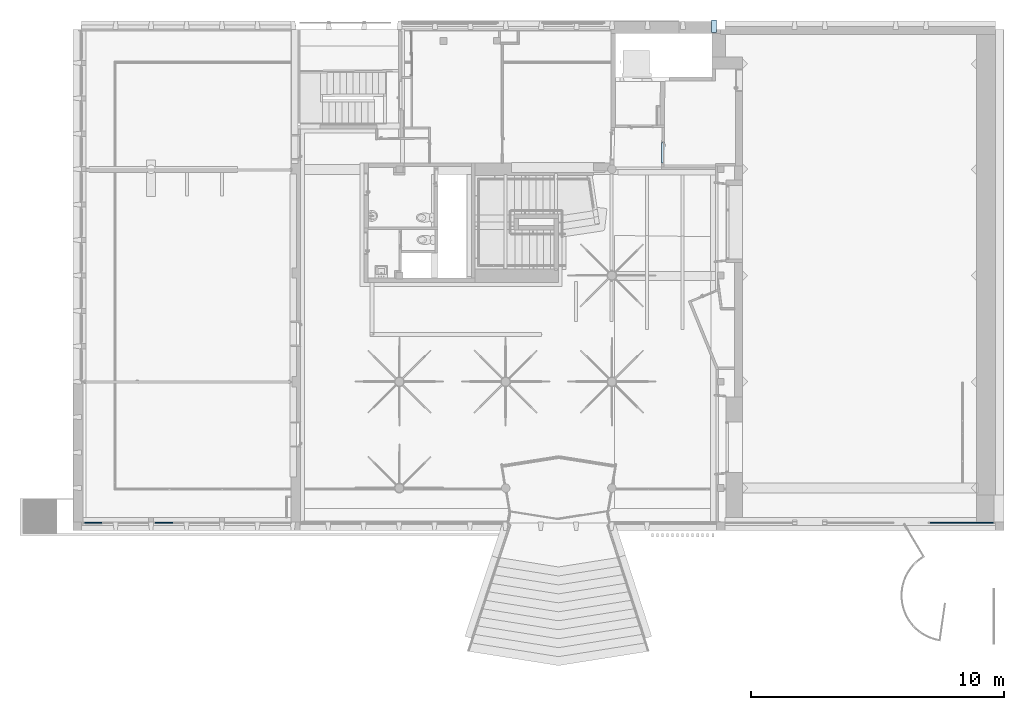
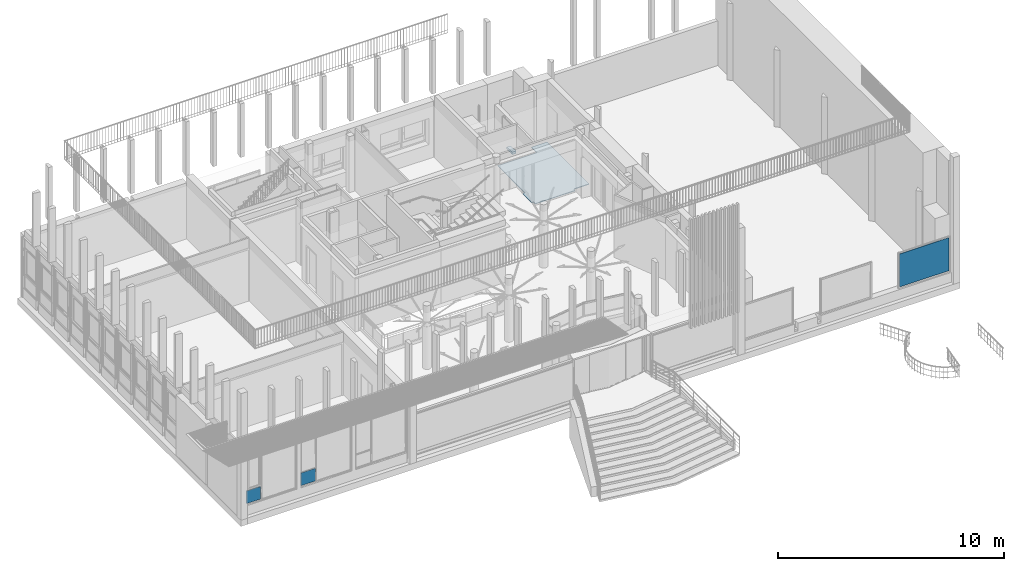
# One storey, part 18 of 65: 3 plates, 2 slabs, 3 elements without a shape of their own.
"""IFC4 building model written with IfcOpenShell, lengths in metres."""

from ifc_helpers import new_model, entity, si_unit, converted_unit, derived_unit, direction, frame, origin, place, context, subcontext, project, spatial, indexed_curve, outline, extrude, shape, source, transform, mapped, material, layer, layer_set, type_object, type_shapes, element, aggregate, save


model = new_model("IFC4")

# Units and contexts
model_context = context("Model", 3, precision=1e-05, world=origin(), true_north=direction((6.12303176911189e-17, 1.0)))
body_context = subcontext(model_context, "Body", "Model", "MODEL_VIEW")
footprint_context = subcontext(model_context, "FootPrint", "Model", "MODEL_VIEW")
ifc_project = project(units=[si_unit("LENGTHUNIT", "METRE"), si_unit("AREAUNIT", "SQUARE_METRE"), si_unit("VOLUMEUNIT", "CUBIC_METRE"), converted_unit("PLANEANGLEUNIT", "DEGREE", entity("IfcRatioMeasure", 0.0174532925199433), si_unit("PLANEANGLEUNIT", "RADIAN"), dimensions=[0, 0, 0, 0, 0, 0, 0]), si_unit("MASSUNIT", "GRAM", prefix="KILO"), derived_unit("MASSDENSITYUNIT", [(si_unit("MASSUNIT", "GRAM", prefix="KILO"), 1), (si_unit("LENGTHUNIT", "METRE"), -3)]), derived_unit("MOMENTOFINERTIAUNIT", [(si_unit("LENGTHUNIT", "METRE"), 4)]), si_unit("TIMEUNIT", "SECOND"), si_unit("FREQUENCYUNIT", "HERTZ"), si_unit("THERMODYNAMICTEMPERATUREUNIT", "DEGREE_CELSIUS"), derived_unit("THERMALTRANSMITTANCEUNIT", [(si_unit("MASSUNIT", "GRAM", prefix="KILO"), 1), (si_unit("THERMODYNAMICTEMPERATUREUNIT", "KELVIN"), -1), (si_unit("TIMEUNIT", "SECOND"), -3)]), derived_unit("VOLUMETRICFLOWRATEUNIT", [(si_unit("LENGTHUNIT", "METRE"), 3), (si_unit("TIMEUNIT", "SECOND"), -1)]), si_unit("ELECTRICCURRENTUNIT", "AMPERE"), si_unit("ELECTRICVOLTAGEUNIT", "VOLT"), si_unit("POWERUNIT", "WATT"), si_unit("FORCEUNIT", "NEWTON", prefix="KILO"), si_unit("ILLUMINANCEUNIT", "LUX"), si_unit("LUMINOUSFLUXUNIT", "LUMEN"), si_unit("LUMINOUSINTENSITYUNIT", "CANDELA"), derived_unit("USERDEFINED", [(si_unit("MASSUNIT", "GRAM", prefix="KILO"), -1), (si_unit("LENGTHUNIT", "METRE"), -2), (si_unit("TIMEUNIT", "SECOND"), 3), (si_unit("LUMINOUSFLUXUNIT", "LUMEN"), 1)]), derived_unit("LINEARVELOCITYUNIT", [(si_unit("LENGTHUNIT", "METRE"), 1), (si_unit("TIMEUNIT", "SECOND"), -1)]), si_unit("PRESSUREUNIT", "PASCAL"), derived_unit("USERDEFINED", [(si_unit("LENGTHUNIT", "METRE"), -2), (si_unit("MASSUNIT", "GRAM", prefix="KILO"), 1), (si_unit("TIMEUNIT", "SECOND"), -2)]), derived_unit("LINEARFORCEUNIT", [(si_unit("MASSUNIT", "GRAM", prefix="KILO"), 1), (si_unit("LENGTHUNIT", "METRE"), 1), (si_unit("TIMEUNIT", "SECOND"), -2), (si_unit("LENGTHUNIT", "METRE"), -1)]), derived_unit("PLANARFORCEUNIT", [(si_unit("MASSUNIT", "GRAM", prefix="KILO"), 1), (si_unit("LENGTHUNIT", "METRE"), 1), (si_unit("TIMEUNIT", "SECOND"), -2), (si_unit("LENGTHUNIT", "METRE"), -2)])], contexts=[model_context])

# Site, building, storey
site_placement = place(None, origin())
site = spatial("IfcSite", under=ifc_project, at=site_placement, Name="Default", CompositionType="ELEMENT")
building_placement = place(site_placement, origin())
building = spatial("IfcBuilding", under=site, at=building_placement, Name="HOTEL CONSULAIRE BOULOGNE SUR MER", CompositionType="ELEMENT")
storey_placement = place(building_placement, origin())
storey = spatial("IfcBuildingStorey", under=building, at=storey_placement, Name="Niveau 0", CompositionType="ELEMENT", Elevation=1.31981936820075e-13)

# Slab
ifc_material_1 = material(Name="Carreau, porcelaine, 4 po", Category="Mosaïque")
ifc_layer_1 = layer(ifc_material_1, 0.04, Name="Carreau, porcelaine, 4 po", Category="Mosaïque")
ifc_layer_set_1 = layer_set([ifc_layer_1], Name="Sol:Finition carrelage blanc")
slab_type_1 = type_object("IfcSlabType", Name="Sol:Finition carrelage blanc", PredefinedType="FLOOR", material=ifc_layer_set_1)
slab_1_placement = place(storey_placement, origin())
element("IfcSlab", 1, at=slab_1_placement, inside=storey, type_object=slab_type_1, material=ifc_layer_set_1, Name="Sol:Finition carrelage blanc", ObjectType="Sol:Finition carrelage blanc", PredefinedType="FLOOR", context=body_context, shape_type="SweptSolid", body=[
    extrude(outline(indexed_curve([(-0.90341717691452, -1.41719941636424), (1.1419232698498, -1.41719941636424), (1.13958528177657, -1.26304535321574), (1.2395737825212, -1.26152887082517), (1.2274419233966, -0.461620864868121), (1.12418613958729, -0.463186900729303), (1.10067946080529, 1.97951634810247), (-0.893998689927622, 1.97951634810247), (-0.893998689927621, 2.44951634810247), (-1.68927906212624, 2.44951634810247), (-1.68927906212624, -1.28714228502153), (-0.90341717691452, -1.28714228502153), (-0.90341717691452, -1.41719941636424)], self_intersect=False)), frame((10.3671988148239, -14.0987103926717, 0.019999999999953), z_axis=(0.0, 0.0, -1.0), x_axis=(-1.0, 0.0, 0.0)), (0.0, 0.0, 1.0), 0.04),
])

# Curtain wall, plate
curtain_wall_type = type_object("IfcCurtainWallType", Name="Mur-rideau:Simple panneau", PredefinedType="NOTDEFINED")
curtain_wall_1_placement = place(storey_placement, origin())
curtain_wall_1 = element("IfcCurtainWall", 2, at=curtain_wall_1_placement, inside=storey, type_object=curtain_wall_type, Name="Mur-rideau:Simple panneau", ObjectType="Mur-rideau:Simple panneau", PredefinedType="NOTDEFINED")
ifc_material_2 = material(Name="Verre", Category="Verre")
ifc_layer_2 = layer(ifc_material_2, 0.04, Name="Verre", Category="Verre")
ifc_layer_set_2 = layer_set([ifc_layer_2], Name="Mur-rideau:Simple panneau")
plate_type_1 = type_object("IfcPlateType", Name="Panneau système:Vitré", PredefinedType="CURTAIN_PANEL", material=ifc_layer_set_2)
shared_shape_1 = source(origin(), body_context, "Body", "SweptSolid", [
    extrude(outline(indexed_curve([(-0.02, -1.26160736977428), (0.02, -1.26160736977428), (0.02, 1.26160736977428), (-0.02, 1.26160736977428), (-0.02, -1.26160736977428)], self_intersect=False)), frame((1.26160736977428, 0.02, 0.0), z_axis=(0.0, 0.0, 1.0), x_axis=(0.0, 1.0, 0.0)), (0.0, 0.0, 1.0), 1.78944921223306),
])
shared_shape_2 = source(frame((-1.26160736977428, 0.00499999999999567, 0.0)), footprint_context, "FootPrint", "Curve2D", [
    entity("IfcIndexedPolyCurve", entity("IfcCartesianPointList2D", [[1.64614529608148, 0.00347599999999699], [1.64614529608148, 0.043475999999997], [-0.877069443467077, 0.043475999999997], [-0.877069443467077, 0.00347599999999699], [1.64614529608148, 0.00347599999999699]]), None, False),
])
type_shapes(plate_type_1, [shared_shape_1, shared_shape_2])
plate_1_placement = place(curtain_wall_1_placement, frame((19.7354235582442, -29.6090671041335, 0.374591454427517)))
plate_1 = element("IfcPlate", 3, at=plate_1_placement, type_object=plate_type_1, material=ifc_layer_set_2, Name="Panneau système:Vitré", ObjectType="Panneau système:Vitré", PredefinedType="CURTAIN_PANEL", shapes=[
    shape(body_context, "Body", "MappedRepresentation", [mapped(shared_shape_1, transform((0.0, 0.0, 0.0), scale=1.0))]),
    shape(body_context, "Body", "MappedRepresentation", [mapped(shared_shape_2, transform((0.0, 0.0, 0.0), scale=1.0))]),
])
aggregate(curtain_wall_1, [plate_1])

curtain_wall_2_placement = place(storey_placement, origin())
curtain_wall_2 = element("IfcCurtainWall", 4, at=curtain_wall_2_placement, inside=storey, type_object=curtain_wall_type, Name="Mur-rideau:Simple panneau", ObjectType="Mur-rideau:Simple panneau", PredefinedType="NOTDEFINED")
plate_type_2 = type_object("IfcPlateType", Name="Panneau système:Vitré", PredefinedType="CURTAIN_PANEL", material=ifc_layer_set_2)
shared_shape_3 = source(origin(), body_context, "Body", "SweptSolid", [
    extrude(outline(indexed_curve([(-0.02, -0.357184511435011), (0.02, -0.357184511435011), (0.02, 0.357184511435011), (-0.02, 0.357184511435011), (-0.02, -0.357184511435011)], self_intersect=False)), frame((0.357184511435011, 0.02, 0.0), z_axis=(0.0, 0.0, 1.0), x_axis=(0.0, 1.0, 0.0)), (0.0, 0.0, 1.0), 0.684),
])
shared_shape_4 = source(frame((-0.35718451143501, 0.00499999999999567, 0.0)), footprint_context, "FootPrint", "Curve2D", [
    entity("IfcIndexedPolyCurve", entity("IfcCartesianPointList2D", [[0.466054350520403, 0.00347599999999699], [0.466054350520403, 0.043475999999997], [-0.248314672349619, 0.043475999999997], [-0.248314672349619, 0.00347599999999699], [0.466054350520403, 0.00347599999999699]]), None, False),
])
type_shapes(plate_type_2, [shared_shape_3, shared_shape_4])
plate_2_placement = place(curtain_wall_2_placement, frame((-13.6793496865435, -29.6090671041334, 0.349999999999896)))
plate_2 = element("IfcPlate", 5, at=plate_2_placement, type_object=plate_type_2, material=ifc_layer_set_2, Name="Panneau système:Vitré", ObjectType="Panneau système:Vitré", PredefinedType="CURTAIN_PANEL", shapes=[
    shape(body_context, "Body", "MappedRepresentation", [mapped(shared_shape_3, transform((0.0, 0.0, 0.0), scale=1.0))]),
    shape(body_context, "Body", "MappedRepresentation", [mapped(shared_shape_4, transform((0.0, 0.0, 0.0), scale=1.0))]),
])
aggregate(curtain_wall_2, [plate_2])

curtain_wall_3_placement = place(storey_placement, origin())
curtain_wall_3 = element("IfcCurtainWall", 6, at=curtain_wall_3_placement, inside=storey, type_object=curtain_wall_type, Name="Mur-rideau:Simple panneau", ObjectType="Mur-rideau:Simple panneau", PredefinedType="NOTDEFINED")
plate_type_3 = type_object("IfcPlateType", Name="Panneau système:Vitré", PredefinedType="CURTAIN_PANEL", material=ifc_layer_set_2)
shared_shape_5 = source(origin(), body_context, "Body", "SweptSolid", [
    extrude(outline(indexed_curve([(-0.02, -0.363219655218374), (0.02, -0.363219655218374), (0.02, 0.363219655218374), (-0.02, 0.363219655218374), (-0.02, -0.363219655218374)], self_intersect=False)), frame((0.363219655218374, 0.02, 0.0), z_axis=(0.0, 0.0, 1.0), x_axis=(0.0, 1.0, 0.0)), (0.0, 0.0, 1.0), 0.684),
])
shared_shape_6 = source(frame((-0.363219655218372, 0.00500000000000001, 0.0)), footprint_context, "FootPrint", "Curve2D", [
    entity("IfcIndexedPolyCurve", entity("IfcCartesianPointList2D", [[0.473929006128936, 0.003476], [0.473929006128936, 0.043476], [-0.252510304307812, 0.043476], [-0.252510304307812, 0.003476], [0.473929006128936, 0.003476]]), None, False),
])
type_shapes(plate_type_3, [shared_shape_5, shared_shape_6])
plate_3_placement = place(curtain_wall_3_placement, frame((-10.8914199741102, -29.6090671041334, 0.349999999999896)))
plate_3 = element("IfcPlate", 7, at=plate_3_placement, type_object=plate_type_3, material=ifc_layer_set_2, Name="Panneau système:Vitré", ObjectType="Panneau système:Vitré", PredefinedType="CURTAIN_PANEL", shapes=[
    shape(body_context, "Body", "MappedRepresentation", [mapped(shared_shape_5, transform((0.0, 0.0, 0.0), scale=1.0))]),
    shape(body_context, "Body", "MappedRepresentation", [mapped(shared_shape_6, transform((0.0, 0.0, 0.0), scale=1.0))]),
])
aggregate(curtain_wall_3, [plate_3])

# Slab
ifc_material_3 = material(Name="Plâtre", Category="Plâtre")
slab_type_2 = type_object("IfcSlabType", Name="Sols 2:Sols 2", PredefinedType="FLOOR", material=ifc_material_3)
slab_2_placement = place(storey_placement, frame((11.1084859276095, -10.2140173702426, -1.20519978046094)))
element("IfcSlab", 8, at=slab_2_placement, inside=storey, type_object=slab_type_2, Name="Sols 2:Sols 2", ObjectType="Sols 2:Sols 2", PredefinedType="FLOOR", context=body_context, shape_type="SweptSolid", body=[
    extrude(outline(indexed_curve([(-0.048220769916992, -0.219092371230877), (0.0596615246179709, -0.219092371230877), (0.0850007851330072, 0.279292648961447), (-0.0482207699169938, 0.279292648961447), (-0.0482207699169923, -0.120400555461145), (-0.048220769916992, -0.219092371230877)], self_intersect=False)), frame((0.0, 0.279292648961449, 0.0482207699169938), z_axis=(1.0, 0.0, 0.0), x_axis=(0.0, 0.0, 1.0)), (0.0, 0.0, 1.0), 0.198152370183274),
])

save(model, "model.ifc")
